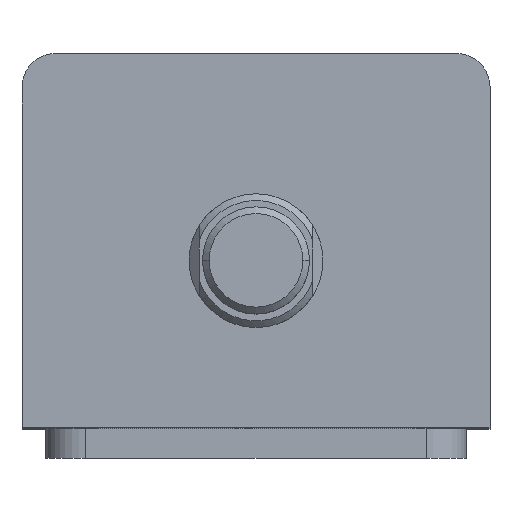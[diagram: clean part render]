
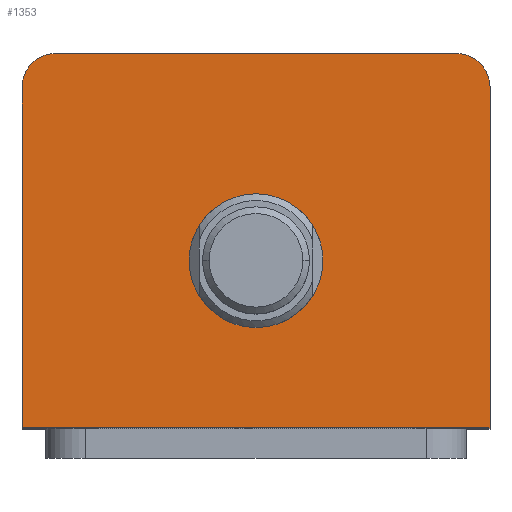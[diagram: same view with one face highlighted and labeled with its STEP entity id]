
A CAD part, top view. The second image highlights one B-rep face of the part: STEP entity #1353.
In plain terms, the highlighted planar face has unit normal (0, 0, 1).
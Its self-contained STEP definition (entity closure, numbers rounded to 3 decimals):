
#81 = VERTEX_POINT ( 'NONE', #2098 ) ;
#98 = VERTEX_POINT ( 'NONE', #1905 ) ;
#119 = VERTEX_POINT ( 'NONE', #1794 ) ;
#121 = VERTEX_POINT ( 'NONE', #1785 ) ;
#153 = VERTEX_POINT ( 'NONE', #2107 ) ;
#161 = VERTEX_POINT ( 'NONE', #2097 ) ;
#184 = VERTEX_POINT ( 'NONE', #2065 ) ;
#203 = VERTEX_POINT ( 'NONE', #2041 ) ;
#292 = EDGE_LOOP ( 'NONE', ( #2898, #2897, #2896, #2895, #2894, #2893 ) ) ;
#295 = EDGE_LOOP ( 'NONE', ( #2900, #2899 ) ) ;
#342 = EDGE_CURVE ( 'NONE', #184, #119, #2521, .T. ) ;
#364 = EDGE_CURVE ( 'NONE', #98, #161, #2559, .T. ) ;
#374 = EDGE_CURVE ( 'NONE', #153, #121, #2573, .T. ) ;
#384 = EDGE_CURVE ( 'NONE', #203, #81, #2587, .T. ) ;
#444 = EDGE_CURVE ( 'NONE', #161, #203, #2668, .T. ) ;
#470 = EDGE_CURVE ( 'NONE', #121, #153, #2706, .T. ) ;
#500 = EDGE_CURVE ( 'NONE', #81, #184, #2749, .T. ) ;
#505 = EDGE_CURVE ( 'NONE', #119, #98, #2756, .T. ) ;
#642 = FACE_BOUND ( 'NONE', #295, .T. ) ;
#645 = FACE_OUTER_BOUND ( 'NONE', #292, .T. ) ;
#1003 = DIRECTION ( 'NONE',  ( 0., 0., 1. ) ) ;
#1004 = DIRECTION ( 'NONE',  ( 1., 0., 0. ) ) ;
#1008 = PLANE ( 'NONE',  #1710 ) ;
#1022 = CARTESIAN_POINT ( 'NONE',  ( 0., 0., 114. ) ) ;
#1353 = ADVANCED_FACE ( 'NONE', ( #642, #645 ), #1008, .T. ) ;
#1710 = AXIS2_PLACEMENT_3D ( 'NONE', #1022, #1003, #1004 ) ;
#1785 = CARTESIAN_POINT ( 'NONE',  ( 10., -3., 114. ) ) ;
#1794 = CARTESIAN_POINT ( 'NONE',  ( 35., -28., 114. ) ) ;
#1876 = DIRECTION ( 'NONE',  ( 1., 0., 0. ) ) ;
#1877 = DIRECTION ( 'NONE',  ( 0., 0., 1. ) ) ;
#1878 = CARTESIAN_POINT ( 'NONE',  ( -30., 23., 114. ) ) ;
#1905 = CARTESIAN_POINT ( 'NONE',  ( 35., 23., 114. ) ) ;
#1906 = DIRECTION ( 'NONE',  ( 1., 0., 0. ) ) ;
#1907 = DIRECTION ( 'NONE',  ( 0., 0., 1. ) ) ;
#1908 = CARTESIAN_POINT ( 'NONE',  ( 0., -3., 114. ) ) ;
#1932 = DIRECTION ( 'NONE',  ( 1., 0., 0. ) ) ;
#1933 = DIRECTION ( 'NONE',  ( 0., 0., 1. ) ) ;
#1934 = CARTESIAN_POINT ( 'NONE',  ( 30., 23., 114. ) ) ;
#2006 = DIRECTION ( 'NONE',  ( 1., 0., 0. ) ) ;
#2012 = CARTESIAN_POINT ( 'NONE',  ( -35., -28., 114. ) ) ;
#2041 = CARTESIAN_POINT ( 'NONE',  ( -30., 28., 114. ) ) ;
#2065 = CARTESIAN_POINT ( 'NONE',  ( -35., -28., 114. ) ) ;
#2097 = CARTESIAN_POINT ( 'NONE',  ( 30., 28., 114. ) ) ;
#2098 = CARTESIAN_POINT ( 'NONE',  ( -35., 23., 114. ) ) ;
#2107 = CARTESIAN_POINT ( 'NONE',  ( -10., -3., 114. ) ) ;
#2273 = DIRECTION ( 'NONE',  ( -1., 0., 0. ) ) ;
#2298 = CARTESIAN_POINT ( 'NONE',  ( -35., 28., 114. ) ) ;
#2319 = DIRECTION ( 'NONE',  ( 0., 1., 0. ) ) ;
#2320 = CARTESIAN_POINT ( 'NONE',  ( 35., 28., 114. ) ) ;
#2343 = DIRECTION ( 'NONE',  ( 0., -1., 0. ) ) ;
#2344 = CARTESIAN_POINT ( 'NONE',  ( -35., 28., 114. ) ) ;
#2434 = DIRECTION ( 'NONE',  ( 1., 0., 0. ) ) ;
#2436 = DIRECTION ( 'NONE',  ( 0., 0., 1. ) ) ;
#2438 = CARTESIAN_POINT ( 'NONE',  ( 0., -3., 114. ) ) ;
#2521 = LINE ( 'NONE', #2012, #2525 ) ;
#2525 = VECTOR ( 'NONE', #2006, 1000. ) ;
#2559 = CIRCLE ( 'NONE', #2867, 5. ) ;
#2573 = CIRCLE ( 'NONE', #2858, 10. ) ;
#2587 = CIRCLE ( 'NONE', #2851, 5. ) ;
#2668 = LINE ( 'NONE', #2298, #2673 ) ;
#2673 = VECTOR ( 'NONE', #2273, 1000. ) ;
#2706 = CIRCLE ( 'NONE', #2794, 10. ) ;
#2749 = LINE ( 'NONE', #2344, #2751 ) ;
#2751 = VECTOR ( 'NONE', #2343, 1000. ) ;
#2756 = LINE ( 'NONE', #2320, #2759 ) ;
#2759 = VECTOR ( 'NONE', #2319, 1000. ) ;
#2794 = AXIS2_PLACEMENT_3D ( 'NONE', #2438, #2436, #2434 ) ;
#2851 = AXIS2_PLACEMENT_3D ( 'NONE', #1878, #1877, #1876 ) ;
#2858 = AXIS2_PLACEMENT_3D ( 'NONE', #1908, #1907, #1906 ) ;
#2867 = AXIS2_PLACEMENT_3D ( 'NONE', #1934, #1933, #1932 ) ;
#2893 = ORIENTED_EDGE ( 'NONE', *, *, #342, .T. ) ;
#2894 = ORIENTED_EDGE ( 'NONE', *, *, #500, .T. ) ;
#2895 = ORIENTED_EDGE ( 'NONE', *, *, #384, .T. ) ;
#2896 = ORIENTED_EDGE ( 'NONE', *, *, #444, .T. ) ;
#2897 = ORIENTED_EDGE ( 'NONE', *, *, #364, .T. ) ;
#2898 = ORIENTED_EDGE ( 'NONE', *, *, #505, .T. ) ;
#2899 = ORIENTED_EDGE ( 'NONE', *, *, #374, .F. ) ;
#2900 = ORIENTED_EDGE ( 'NONE', *, *, #470, .F. ) ;
